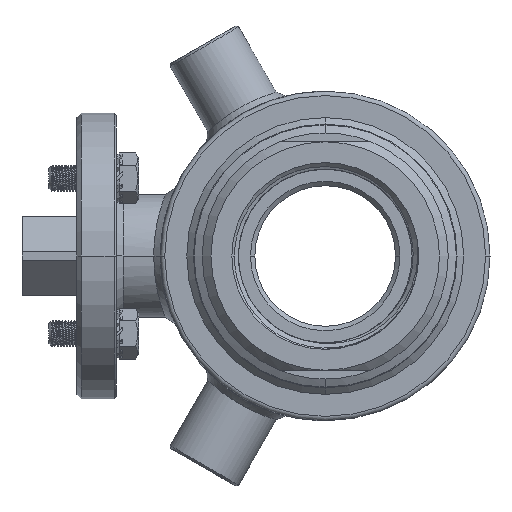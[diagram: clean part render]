
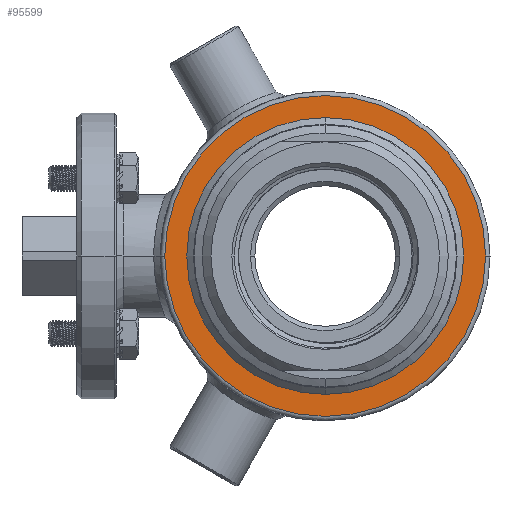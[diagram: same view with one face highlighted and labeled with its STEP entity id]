
A CAD part, left-side view. The second image highlights one B-rep face of the part: STEP entity #95599.
In plain terms, the highlighted planar face has unit normal (-1, 0, 0).
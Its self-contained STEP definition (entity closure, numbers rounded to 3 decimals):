
#11113=CARTESIAN_POINT('',(-23.,0.,0.));
#11114=DIRECTION('',(-1.,0.,0.));
#11115=DIRECTION('',(0.,-1.,0.));
#11116=AXIS2_PLACEMENT_3D('',#11113,#11114,#11115);
#11121=CARTESIAN_POINT('',(-23.,0.,0.));
#11122=DIRECTION('',(-1.,0.,0.));
#11123=DIRECTION('',(0.,1.,0.));
#11124=AXIS2_PLACEMENT_3D('',#11121,#11122,#11123);
#11129=CARTESIAN_POINT('',(-23.,0.,0.));
#11130=DIRECTION('',(1.,0.,0.));
#11131=DIRECTION('',(0.,0.,1.));
#11132=AXIS2_PLACEMENT_3D('',#11129,#11130,#11131);
#11137=CARTESIAN_POINT('',(-23.,0.,0.));
#11138=DIRECTION('',(1.,0.,0.));
#11139=DIRECTION('',(0.,0.,-1.));
#11140=AXIS2_PLACEMENT_3D('',#11137,#11138,#11139);
#83616=CARTESIAN_POINT('',(-23.,-36.5,0.));
#83617=CARTESIAN_POINT('',(-23.,36.5,0.));
#83618=VERTEX_POINT('',#83616);
#83619=VERTEX_POINT('',#83617);
#84074=CARTESIAN_POINT('',(-23.,0.,31.5));
#84075=CARTESIAN_POINT('',(-23.,0.,-31.5));
#84076=VERTEX_POINT('',#84074);
#84077=VERTEX_POINT('',#84075);
#95585=CARTESIAN_POINT('',(-23.,0.,0.));
#95586=DIRECTION('',(-1.,0.,0.));
#95587=DIRECTION('',(0.,1.,0.));
#95588=AXIS2_PLACEMENT_3D('',#95585,#95586,#95587);
#95589=PLANE('',#95588);
#95591=ORIENTED_EDGE('',*,*,#95590,.F.);
#95592=ORIENTED_EDGE('',*,*,#95575,.F.);
#95593=EDGE_LOOP('',(#95591,#95592));
#95594=FACE_OUTER_BOUND('',#95593,.F.);
#95595=ORIENTED_EDGE('',*,*,#88053,.F.);
#95596=ORIENTED_EDGE('',*,*,#88075,.F.);
#95597=EDGE_LOOP('',(#95595,#95596));
#95598=FACE_BOUND('',#95597,.F.);
#95599=ADVANCED_FACE('',(#95594,#95598),#95589,.T.);
#11117=CIRCLE('',#11116,36.5);
#11125=CIRCLE('',#11124,36.5);
#11133=CIRCLE('',#11132,31.5);
#11141=CIRCLE('',#11140,31.5);
#88053=EDGE_CURVE('',#84076,#84077,#11133,.T.);
#88075=EDGE_CURVE('',#84077,#84076,#11141,.T.);
#95575=EDGE_CURVE('',#83619,#83618,#11125,.T.);
#95590=EDGE_CURVE('',#83618,#83619,#11117,.T.);
